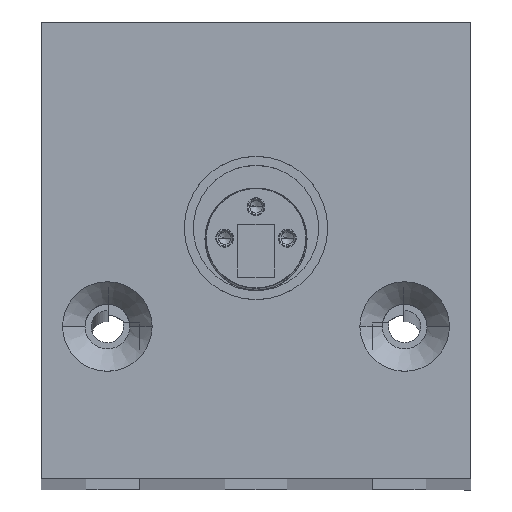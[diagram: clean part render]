
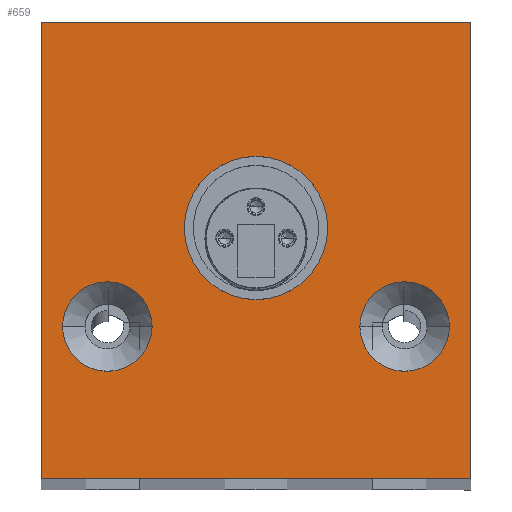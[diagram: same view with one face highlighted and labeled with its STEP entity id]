
A CAD part, top view. The second image highlights one B-rep face of the part: STEP entity #659.
In plain terms, the highlighted planar face has unit normal (0, 0, 1).
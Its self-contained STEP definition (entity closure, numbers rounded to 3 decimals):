
#659=ADVANCED_FACE('',(#1507,#1508,#1509,#1510),#1511,.T.);
#1507=FACE_BOUND('',#2526,.T.);
#1508=FACE_BOUND('',#2527,.T.);
#1509=FACE_BOUND('',#2528,.T.);
#1510=FACE_OUTER_BOUND('',#2529,.T.);
#1511=PLANE('',#2530);
#2526=EDGE_LOOP('',(#4559,#4560));
#2527=EDGE_LOOP('',(#4561,#4562));
#2528=EDGE_LOOP('',(#4563,#4564));
#2529=EDGE_LOOP('',(#4565,#4566,#4567,#4568));
#2530=AXIS2_PLACEMENT_3D('',#4569,#4570,#4571);
#4559=ORIENTED_EDGE('',*,*,#6915,.T.);
#4560=ORIENTED_EDGE('',*,*,#6297,.T.);
#4561=ORIENTED_EDGE('',*,*,#6916,.T.);
#4562=ORIENTED_EDGE('',*,*,#6618,.T.);
#4563=ORIENTED_EDGE('',*,*,#6417,.T.);
#4564=ORIENTED_EDGE('',*,*,#6917,.T.);
#4565=ORIENTED_EDGE('',*,*,#6442,.T.);
#4566=ORIENTED_EDGE('',*,*,#6294,.T.);
#4567=ORIENTED_EDGE('',*,*,#6918,.T.);
#4568=ORIENTED_EDGE('',*,*,#6331,.T.);
#4569=CARTESIAN_POINT('',(0.,0.,180.0));
#4570=DIRECTION('',(0.,0.,1.0));
#4571=DIRECTION('',(1.0,0.,0.));
#6294=EDGE_CURVE('',#7609,#7614,#7616,.T.);
#6297=EDGE_CURVE('',#7621,#7619,#7622,.T.);
#6331=EDGE_CURVE('',#7680,#7678,#7681,.T.);
#6417=EDGE_CURVE('',#7814,#7819,#7821,.T.);
#6442=EDGE_CURVE('',#7678,#7609,#7861,.T.);
#6618=EDGE_CURVE('',#8149,#8146,#8150,.T.);
#6915=EDGE_CURVE('',#7619,#7621,#8581,.T.);
#6916=EDGE_CURVE('',#8146,#8149,#8582,.T.);
#6917=EDGE_CURVE('',#7819,#7814,#8583,.T.);
#6918=EDGE_CURVE('',#7614,#7680,#8584,.T.);
#7609=VERTEX_POINT('',#9677);
#7614=VERTEX_POINT('',#9684);
#7616=LINE('',#9687,#9688);
#7619=VERTEX_POINT('',#9691);
#7621=VERTEX_POINT('',#9694);
#7622=CIRCLE('',#9695,4.0);
#7678=VERTEX_POINT('',#9806);
#7680=VERTEX_POINT('',#9809);
#7681=LINE('',#9810,#9811);
#7814=VERTEX_POINT('',#10191);
#7819=VERTEX_POINT('',#10197);
#7821=CIRCLE('',#10200,2.5);
#7861=LINE('',#10322,#10323);
#8146=VERTEX_POINT('',#10935);
#8149=VERTEX_POINT('',#10939);
#8150=CIRCLE('',#10940,2.5);
#8581=CIRCLE('',#11991,4.0);
#8582=CIRCLE('',#11992,2.5);
#8583=CIRCLE('',#11993,2.5);
#8584=LINE('',#11994,#11995);
#9677=CARTESIAN_POINT('',(12.0,12.75,180.0));
#9684=CARTESIAN_POINT('',(-12.0,12.75,180.0));
#9687=CARTESIAN_POINT('',(0.,12.75,180.0));
#9688=VECTOR('',#13331,1.);
#9691=CARTESIAN_POINT('',(-4.,1.25,180.0));
#9694=CARTESIAN_POINT('',(4.,1.25,180.0));
#9695=AXIS2_PLACEMENT_3D('',#13333,#13334,#13335);
#9806=CARTESIAN_POINT('',(12.0,-12.75,180.0));
#9809=CARTESIAN_POINT('',(-12.0,-12.75,180.0));
#9810=CARTESIAN_POINT('',(0.,-12.75,180.0));
#9811=VECTOR('',#13376,1.);
#10191=CARTESIAN_POINT('',(10.8,-4.25,180.0));
#10197=CARTESIAN_POINT('',(5.8,-4.25,180.0));
#10200=AXIS2_PLACEMENT_3D('',#13458,#13459,#13460);
#10322=CARTESIAN_POINT('',(12.0,0.,180.0));
#10323=VECTOR('',#13478,1.);
#10935=CARTESIAN_POINT('',(-5.8,-4.25,180.0));
#10939=CARTESIAN_POINT('',(-10.8,-4.25,180.0));
#10940=AXIS2_PLACEMENT_3D('',#13687,#13688,#13689);
#11991=AXIS2_PLACEMENT_3D('',#14016,#14017,#14018);
#11992=AXIS2_PLACEMENT_3D('',#14019,#14020,#14021);
#11993=AXIS2_PLACEMENT_3D('',#14022,#14023,#14024);
#11994=CARTESIAN_POINT('',(-12.0,0.0,180.0));
#11995=VECTOR('',#14025,1.);
#13331=DIRECTION('',(-1.0,0.,0.));
#13333=CARTESIAN_POINT('',(0.,1.25,180.0));
#13334=DIRECTION('',(0.,0.,-1.0));
#13335=DIRECTION('',(-1.0,0.,0.));
#13376=DIRECTION('',(1.0,0.,0.));
#13458=CARTESIAN_POINT('',(8.3,-4.25,180.0));
#13459=DIRECTION('',(0.,0.,-1.0));
#13460=DIRECTION('',(1.0,0.,0.));
#13478=DIRECTION('',(0.,1.0,0.));
#13687=CARTESIAN_POINT('',(-8.3,-4.25,180.0));
#13688=DIRECTION('',(0.,0.,-1.0));
#13689=DIRECTION('',(1.0,0.,0.));
#14016=CARTESIAN_POINT('',(0.,1.25,180.0));
#14017=DIRECTION('',(0.,0.,-1.0));
#14018=DIRECTION('',(-1.0,0.,0.));
#14019=CARTESIAN_POINT('',(-8.3,-4.25,180.0));
#14020=DIRECTION('',(0.,0.,-1.0));
#14021=DIRECTION('',(1.0,0.,0.));
#14022=CARTESIAN_POINT('',(8.3,-4.25,180.0));
#14023=DIRECTION('',(0.,0.,-1.0));
#14024=DIRECTION('',(1.0,0.,0.));
#14025=DIRECTION('',(0.,-1.0,0.));
